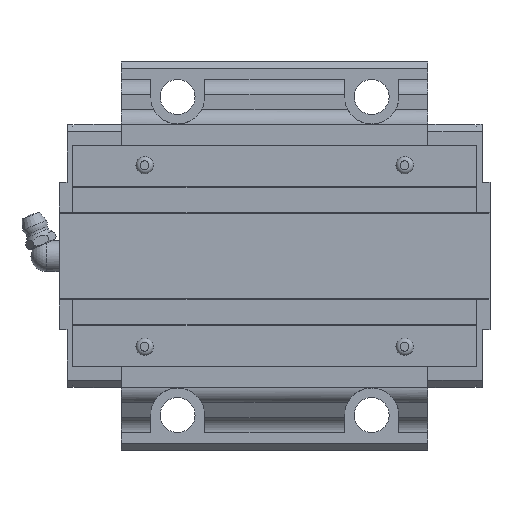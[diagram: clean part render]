
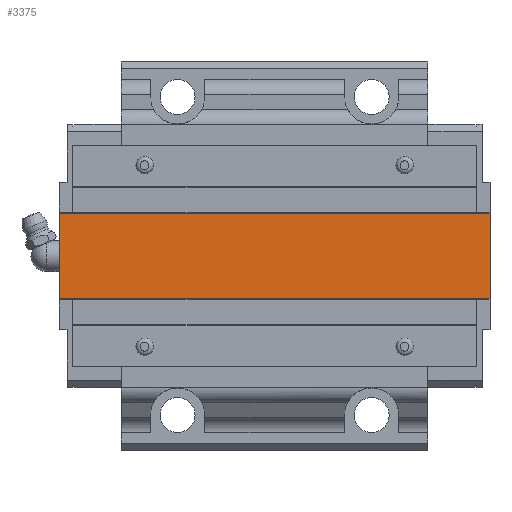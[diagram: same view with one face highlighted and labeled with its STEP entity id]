
A CAD part, front view. The second image highlights one B-rep face of the part: STEP entity #3375.
In plain terms, the highlighted planar face has unit normal (0, -1, 0).
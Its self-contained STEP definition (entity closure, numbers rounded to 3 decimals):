
#210=LINE('',#5175,#562);
#218=LINE('',#5199,#570);
#380=LINE('',#5668,#732);
#381=LINE('',#5670,#733);
#562=VECTOR('',#4075,1000.);
#570=VECTOR('',#4093,1000.);
#732=VECTOR('',#4513,1000.);
#733=VECTOR('',#4516,1000.);
#855=PLANE('',#3664);
#1843=ORIENTED_EDGE('',*,*,#2161,.F.);
#1844=ORIENTED_EDGE('',*,*,#2385,.F.);
#1845=ORIENTED_EDGE('',*,*,#2173,.T.);
#1846=ORIENTED_EDGE('',*,*,#2386,.T.);
#2161=EDGE_CURVE('',#2572,#2573,#210,.T.);
#2173=EDGE_CURVE('',#2584,#2583,#218,.T.);
#2385=EDGE_CURVE('',#2584,#2572,#380,.T.);
#2386=EDGE_CURVE('',#2583,#2573,#381,.T.);
#2572=VERTEX_POINT('',#5174);
#2573=VERTEX_POINT('',#5176);
#2583=VERTEX_POINT('',#5198);
#2584=VERTEX_POINT('',#5200);
#2939=EDGE_LOOP('',(#1843,#1844,#1845,#1846));
#3164=FACE_BOUND('',#2939,.T.);
#3375=ADVANCED_FACE('',(#3164),#855,.T.);
#3664=AXIS2_PLACEMENT_3D('',#5669,#4514,#4515);
#4075=DIRECTION('',(0.,0.,1.));
#4093=DIRECTION('',(0.,0.,1.));
#4513=DIRECTION('',(-1.,0.,0.));
#4514=DIRECTION('',(0.,-1.,0.));
#4515=DIRECTION('',(0.,0.,-1.));
#4516=DIRECTION('',(-1.,0.,0.));
#5174=CARTESIAN_POINT('',(-55.5,16.,-11.068));
#5175=CARTESIAN_POINT('',(-55.5,16.,-11.068));
#5176=CARTESIAN_POINT('',(-55.5,16.,11.068));
#5198=CARTESIAN_POINT('',(55.5,16.,11.068));
#5199=CARTESIAN_POINT('',(55.5,16.,-11.068));
#5200=CARTESIAN_POINT('',(55.5,16.,-11.068));
#5668=CARTESIAN_POINT('',(55.5,16.,-11.068));
#5669=CARTESIAN_POINT('',(55.5,16.,-11.068));
#5670=CARTESIAN_POINT('',(55.5,16.,11.068));
